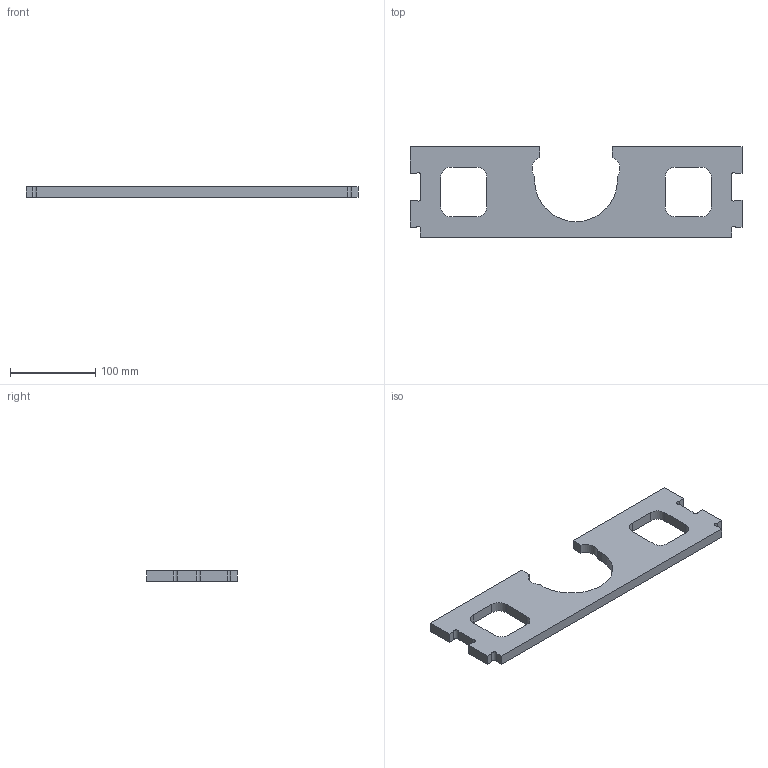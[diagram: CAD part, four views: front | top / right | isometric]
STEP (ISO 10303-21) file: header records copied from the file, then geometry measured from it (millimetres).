
FILE_DESCRIPTION(/* description */ ('','CAx-IF Rec.Pracs.---Representation and Presentation of Product Manufacturing Information (PMI)---4.0---2014-10-13'),/* implementation_level */ '2;1');
FILE_NAME(/* name */ 'TP-vertical-brace-12mm.step',/* time_stamp */ '2024-12-17T12:26:47+01:00',/* author */ (''),/* organization */ (''),/* preprocessor_version */ 'ST-DEVELOPER v20',/* originating_system */ 'Autodesk Translation Framework v13.20.0.188',/* authorisation */ '');
FILE_SCHEMA (('AP242_MANAGED_MODEL_BASED_3D_ENGINEERING_MIM_LF { 1 0 10303 442 1 1 4 }'));
Length unit declared in the file: millimetre
Products named in the file (1): vertical-brace
Bounding box: 389 x 106.5 x 12 mm (x, y, z)
Volume: 322346.9 mm3; surface area: 73033.1 mm2
Topology: 1 solids, 1 shells, 46 faces, 132 edges, 88 vertices
Faces by surface type: plane 29, cylinder 17
Entity records: 1558 total; most frequent: CARTESIAN_POINT 267, ORIENTED_EDGE 264, DIRECTION 260, EDGE_CURVE 132, LINE 98, VECTOR 98, VERTEX_POINT 88, AXIS2_PLACEMENT_3D 81
